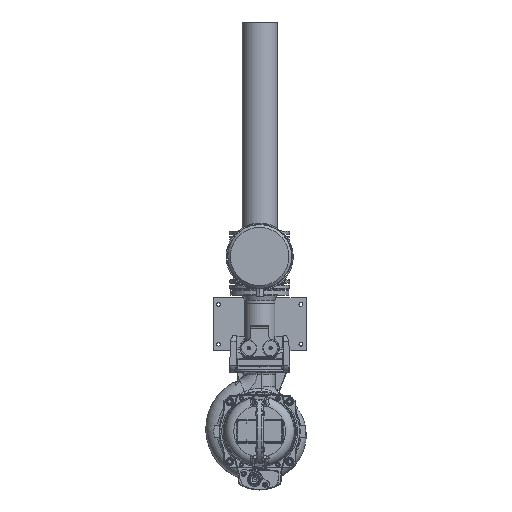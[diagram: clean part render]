
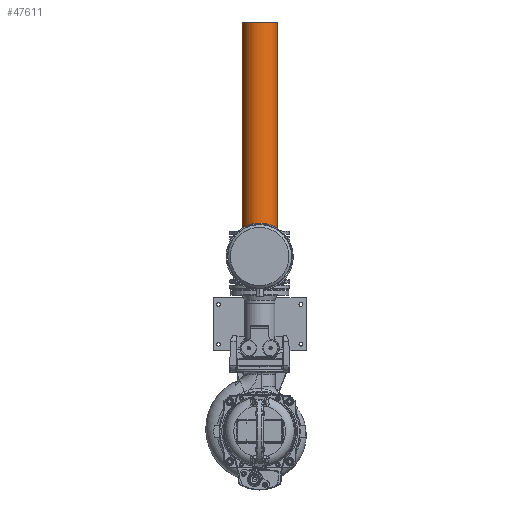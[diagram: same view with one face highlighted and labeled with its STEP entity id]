
A CAD part, top view. The second image highlights one B-rep face of the part: STEP entity #47611.
In plain terms, the highlighted cylindrical face has radius 66.5 mm (diameter 133 mm), a full revolution.
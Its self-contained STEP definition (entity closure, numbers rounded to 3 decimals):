
#4655=FACE_OUTER_BOUND('',#7651,.T.);
#7651=EDGE_LOOP('',(#30901,#30902,#30903,#30904,#30905));
#10948=LINE('',#71305,#13432);
#13432=VECTOR('',#57326,66.5);
#15943=CIRCLE('',#51425,66.5);
#15944=CIRCLE('',#51426,66.5);
#15945=CIRCLE('',#51428,66.5);
#19064=VERTEX_POINT('',#71297);
#19065=VERTEX_POINT('',#71299);
#19066=VERTEX_POINT('',#71303);
#23602=EDGE_CURVE('',#19064,#19065,#15943,.T.);
#23603=EDGE_CURVE('',#19065,#19064,#15944,.T.);
#23604=EDGE_CURVE('',#19066,#19066,#15945,.T.);
#23605=EDGE_CURVE('',#19066,#19065,#10948,.T.);
#30901=ORIENTED_EDGE('',*,*,#23604,.T.);
#30902=ORIENTED_EDGE('',*,*,#23605,.T.);
#30903=ORIENTED_EDGE('',*,*,#23602,.F.);
#30904=ORIENTED_EDGE('',*,*,#23603,.F.);
#30905=ORIENTED_EDGE('',*,*,#23605,.F.);
#45188=CYLINDRICAL_SURFACE('',#51427,66.5);
#47611=ADVANCED_FACE('',(#4655),#45188,.T.);
#51425=AXIS2_PLACEMENT_3D('',#71300,#57318,#57319);
#51426=AXIS2_PLACEMENT_3D('',#71301,#57320,#57321);
#51427=AXIS2_PLACEMENT_3D('',#71302,#57322,#57323);
#51428=AXIS2_PLACEMENT_3D('',#71304,#57324,#57325);
#57318=DIRECTION('center_axis',(0.,0.,-1.));
#57319=DIRECTION('ref_axis',(-1.,0.,0.));
#57320=DIRECTION('center_axis',(0.,0.,-1.));
#57321=DIRECTION('ref_axis',(-1.,0.,0.));
#57322=DIRECTION('center_axis',(0.,0.,1.));
#57323=DIRECTION('ref_axis',(1.,0.,0.));
#57324=DIRECTION('center_axis',(0.,0.,-1.));
#57325=DIRECTION('ref_axis',(1.,0.,0.));
#57326=DIRECTION('',(0.,0.,-1.));
#71297=CARTESIAN_POINT('',(66.5,0.,15.));
#71299=CARTESIAN_POINT('',(-66.5,0.,15.));
#71300=CARTESIAN_POINT('Origin',(0.,0.,15.));
#71301=CARTESIAN_POINT('Origin',(0.,0.,15.));
#71302=CARTESIAN_POINT('Origin',(0.,0.,0.));
#71303=CARTESIAN_POINT('',(-66.5,0.,800.));
#71304=CARTESIAN_POINT('Origin',(0.,0.,800.));
#71305=CARTESIAN_POINT('',(-66.5,0.,0.));
